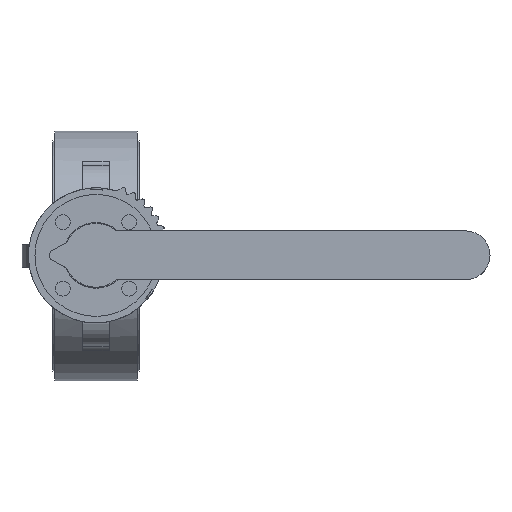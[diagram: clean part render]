
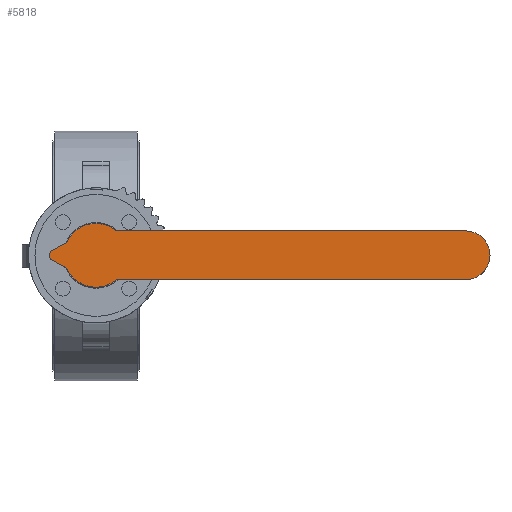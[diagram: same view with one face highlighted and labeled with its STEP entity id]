
A CAD part, top view. The second image highlights one B-rep face of the part: STEP entity #5818.
In plain terms, the highlighted planar face has unit normal (0, 0, 1).
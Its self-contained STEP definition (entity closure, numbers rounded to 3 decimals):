
#5818=ADVANCED_FACE('',(#11341),#11343,.T.);
#11341=FACE_BOUND('',#11342,.T.);
#11342=EDGE_LOOP('',(#15747,#15748,#15749,#15750,#15751,#15752,#15753,#15754,#15755,
#15756,#15757));
#11343=PLANE('',#11344);
#11344=AXIS2_PLACEMENT_3D('',#11345,#11346,#11347);
#11345=CARTESIAN_POINT('',(-1.545,-4.755,216.));
#11346=DIRECTION('',(0.,0.,1.));
#11347=DIRECTION('',(0.951,-0.309,0.));
#15747=ORIENTED_EDGE('',*,*,#18185,.T.);
#15748=ORIENTED_EDGE('',*,*,#18202,.T.);
#15749=ORIENTED_EDGE('',*,*,#18200,.T.);
#15750=ORIENTED_EDGE('',*,*,#18203,.T.);
#15751=ORIENTED_EDGE('',*,*,#18204,.T.);
#15752=ORIENTED_EDGE('',*,*,#18205,.T.);
#15753=ORIENTED_EDGE('',*,*,#18206,.T.);
#15754=ORIENTED_EDGE('',*,*,#18207,.T.);
#15755=ORIENTED_EDGE('',*,*,#18208,.T.);
#15756=ORIENTED_EDGE('',*,*,#18209,.T.);
#15757=ORIENTED_EDGE('',*,*,#18210,.T.);
#18185=EDGE_CURVE('',#21539,#21567,#21569,.T.);
#18200=EDGE_CURVE('',#21599,#21597,#21600,.T.);
#18202=EDGE_CURVE('',#21567,#21599,#21602,.T.);
#18203=EDGE_CURVE('',#21597,#21603,#21604,.T.);
#18204=EDGE_CURVE('',#21603,#21605,#21606,.T.);
#18205=EDGE_CURVE('',#21605,#21607,#21608,.T.);
#18206=EDGE_CURVE('',#21607,#21609,#21610,.T.);
#18207=EDGE_CURVE('',#21609,#21611,#21612,.T.);
#18208=EDGE_CURVE('',#21611,#21613,#21614,.T.);
#18209=EDGE_CURVE('',#21613,#21615,#21616,.T.);
#18210=EDGE_CURVE('',#21615,#21539,#21617,.T.);
#21539=VERTEX_POINT('',#30435);
#21567=VERTEX_POINT('',#30491);
#21569=LINE('',#30495,#30496);
#21597=VERTEX_POINT('',#30551);
#21599=VERTEX_POINT('',#30555);
#21600=LINE('',#30556,#30557);
#21602=CIRCLE('',#30562,13.);
#21603=VERTEX_POINT('',#30566);
#21604=CIRCLE('',#30567,17.);
#21605=VERTEX_POINT('',#30571);
#21606=CIRCLE('',#30572,17.);
#21607=VERTEX_POINT('',#30576);
#21608=CIRCLE('',#30577,3.);
#21609=VERTEX_POINT('',#30581);
#21610=LINE('',#30582,#30583);
#21611=VERTEX_POINT('',#30585);
#21612=CIRCLE('',#30586,3.);
#21613=VERTEX_POINT('',#30590);
#21614=LINE('',#30591,#30592);
#21615=VERTEX_POINT('',#30594);
#21616=CIRCLE('',#30595,3.);
#21617=CIRCLE('',#30599,17.);
#30435=CARTESIAN_POINT('',(10.954,-13.,216.));
#30491=CARTESIAN_POINT('',(197.,-13.,216.));
#30495=CARTESIAN_POINT('',(10.954,-13.,216.));
#30496=VECTOR('',#30497,1.);
#30497=DIRECTION('',(1.,0.,0.));
#30551=CARTESIAN_POINT('',(10.954,13.,216.));
#30555=CARTESIAN_POINT('',(197.,13.,216.));
#30556=CARTESIAN_POINT('',(197.,13.,216.));
#30557=VECTOR('',#30558,1.);
#30558=DIRECTION('',(-1.,0.,0.));
#30562=AXIS2_PLACEMENT_3D('',#30563,#30564,#30565);
#30563=CARTESIAN_POINT('',(197.,0.,216.));
#30564=DIRECTION('',(0.,0.,1.));
#30565=DIRECTION('',(0.,-1.,0.));
#30566=CARTESIAN_POINT('',(2.659,16.791,216.));
#30567=AXIS2_PLACEMENT_3D('',#30568,#30569,#30570);
#30568=CARTESIAN_POINT('',(0.,0.,216.));
#30569=DIRECTION('',(0.,0.,1.));
#30570=DIRECTION('',(0.644,0.765,0.));
#30571=CARTESIAN_POINT('',(-15.113,7.785,216.));
#30572=AXIS2_PLACEMENT_3D('',#30573,#30574,#30575);
#30573=CARTESIAN_POINT('',(0.,0.,216.));
#30574=DIRECTION('',(0.,0.,1.));
#30575=DIRECTION('',(0.156,0.988,0.));
#30576=CARTESIAN_POINT('',(-16.317,6.539,216.));
#30577=AXIS2_PLACEMENT_3D('',#30578,#30579,#30580);
#30578=CARTESIAN_POINT('',(-17.78,9.159,216.));
#30579=DIRECTION('',(0.,0.,-1.));
#30580=DIRECTION('',(0.889,-0.458,0.));
#30581=CARTESIAN_POINT('',(-23.338,2.619,216.));
#30582=CARTESIAN_POINT('',(-16.317,6.539,216.));
#30583=VECTOR('',#30584,1.);
#30584=DIRECTION('',(-0.873,-0.487,0.));
#30585=CARTESIAN_POINT('',(-23.338,-2.619,216.));
#30586=AXIS2_PLACEMENT_3D('',#30587,#30588,#30589);
#30587=CARTESIAN_POINT('',(-21.876,0.,216.));
#30588=DIRECTION('',(0.,0.,1.));
#30589=DIRECTION('',(-0.487,0.873,0.));
#30590=CARTESIAN_POINT('',(-16.317,-6.539,216.));
#30591=CARTESIAN_POINT('',(-23.338,-2.619,216.));
#30592=VECTOR('',#30593,1.);
#30593=DIRECTION('',(0.873,-0.487,0.));
#30594=CARTESIAN_POINT('',(-15.113,-7.785,216.));
#30595=AXIS2_PLACEMENT_3D('',#30596,#30597,#30598);
#30596=CARTESIAN_POINT('',(-17.78,-9.159,216.));
#30597=DIRECTION('',(0.,0.,-1.));
#30598=DIRECTION('',(0.487,0.873,0.));
#30599=AXIS2_PLACEMENT_3D('',#30600,#30601,#30602);
#30600=CARTESIAN_POINT('',(0.,0.,216.));
#30601=DIRECTION('',(0.,0.,1.));
#30602=DIRECTION('',(-0.889,-0.458,0.));
